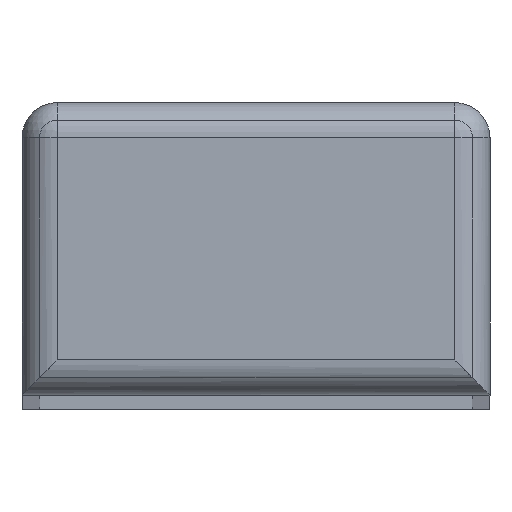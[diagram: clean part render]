
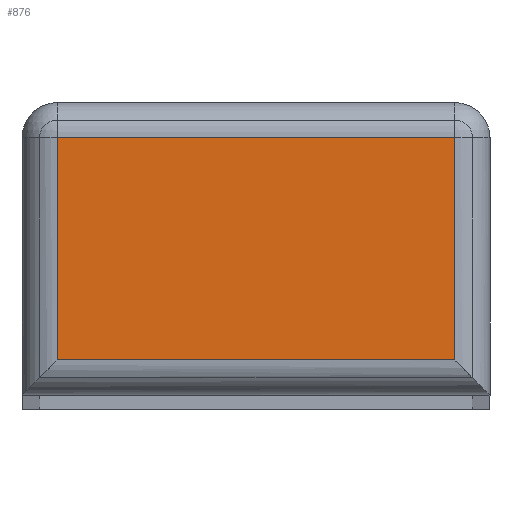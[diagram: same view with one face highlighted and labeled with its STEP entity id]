
A CAD part, top view. The second image highlights one B-rep face of the part: STEP entity #876.
In plain terms, the highlighted planar face has unit normal (0, 0, 1).
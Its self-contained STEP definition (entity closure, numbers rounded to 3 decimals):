
#47 = EDGE_CURVE ( 'NONE', #467, #475, #494, .T. ) ;
#58 = EDGE_CURVE ( 'NONE', #475, #473, #529, .T. ) ;
#99 = EDGE_CURVE ( 'NONE', #473, #472, #1119, .T. ) ;
#101 = EDGE_CURVE ( 'NONE', #472, #467, #1113, .T. ) ;
#234 = ORIENTED_EDGE ( 'NONE', *, *, #99, .T. ) ;
#235 = ORIENTED_EDGE ( 'NONE', *, *, #47, .T. ) ;
#237 = ORIENTED_EDGE ( 'NONE', *, *, #58, .T. ) ;
#245 = ORIENTED_EDGE ( 'NONE', *, *, #101, .T. ) ;
#246 = EDGE_LOOP ( 'NONE', ( #237, #234, #245, #235 ) ) ;
#467 = VERTEX_POINT ( 'NONE', #673 ) ;
#472 = VERTEX_POINT ( 'NONE', #678 ) ;
#473 = VERTEX_POINT ( 'NONE', #679 ) ;
#475 = VERTEX_POINT ( 'NONE', #681 ) ;
#494 = LINE ( 'NONE', #495, #900 ) ;
#495 = CARTESIAN_POINT ( 'NONE',  ( 16., -17.6, 282. ) ) ;
#496 = DIRECTION ( 'NONE',  ( 1., 0., 0. ) ) ;
#529 = LINE ( 'NONE', #530, #896 ) ;
#530 = CARTESIAN_POINT ( 'NONE',  ( 13.6, -20., 282. ) ) ;
#531 = DIRECTION ( 'NONE',  ( 0., 1., 0. ) ) ;
#673 = CARTESIAN_POINT ( 'NONE',  ( -13.6, -17.6, 282. ) ) ;
#678 = CARTESIAN_POINT ( 'NONE',  ( -13.6, -2.4, 282. ) ) ;
#679 = CARTESIAN_POINT ( 'NONE',  ( 13.6, -2.4, 282. ) ) ;
#681 = CARTESIAN_POINT ( 'NONE',  ( 13.6, -17.6, 282. ) ) ;
#750 = PLANE ( 'NONE',  #822 ) ;
#751 = CARTESIAN_POINT ( 'NONE',  ( -16., -20., 282. ) ) ;
#752 = DIRECTION ( 'NONE',  ( 0., 0., 1. ) ) ;
#753 = DIRECTION ( 'NONE',  ( 1., 0., 0. ) ) ;
#822 = AXIS2_PLACEMENT_3D ( 'NONE', #751, #752, #753 ) ;
#825 = FACE_OUTER_BOUND ( 'NONE', #246, .T. ) ;
#876 = ADVANCED_FACE ( 'NONE', ( #825 ), #750, .T. ) ;
#896 = VECTOR ( 'NONE', #531, 1000. ) ;
#900 = VECTOR ( 'NONE', #496, 1000. ) ;
#980 = VECTOR ( 'NONE', #1117, 1000. ) ;
#982 = VECTOR ( 'NONE', #1111, 1000. ) ;
#1111 = DIRECTION ( 'NONE',  ( 0., -1., 0. ) ) ;
#1112 = CARTESIAN_POINT ( 'NONE',  ( -13.6, -20., 282. ) ) ;
#1113 = LINE ( 'NONE', #1112, #982 ) ;
#1117 = DIRECTION ( 'NONE',  ( -1., 0., 0. ) ) ;
#1118 = CARTESIAN_POINT ( 'NONE',  ( -16., -2.4, 282. ) ) ;
#1119 = LINE ( 'NONE', #1118, #980 ) ;
